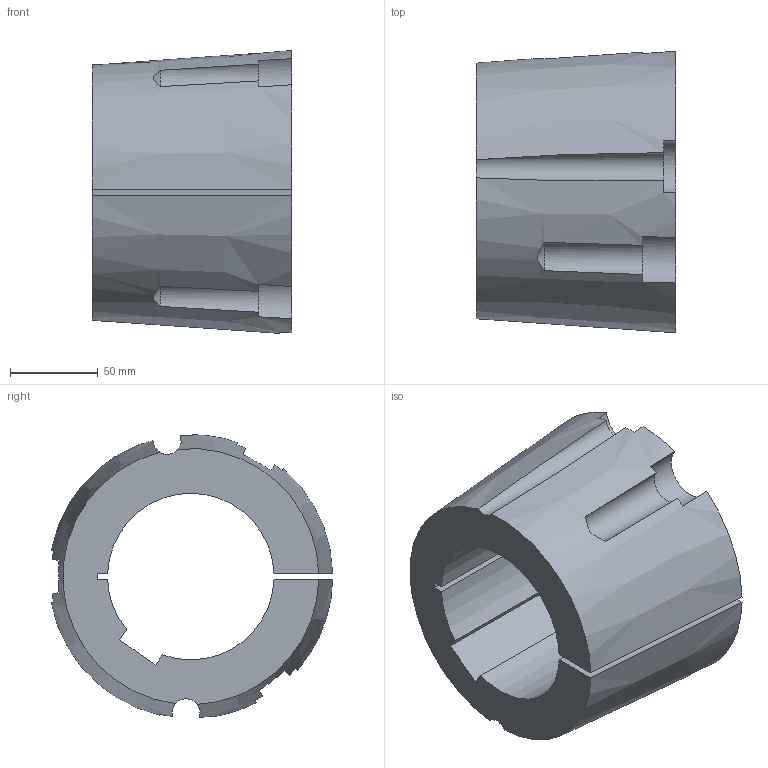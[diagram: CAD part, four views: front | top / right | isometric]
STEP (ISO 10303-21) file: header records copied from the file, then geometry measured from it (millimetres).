
FILE_DESCRIPTION( ( 'STEP AP203' ), '1' );
FILE_NAME( 'D:/export/antriebselemente/spannbuchsen_und_spannsaetze/taper-spannbuchsen_1008_bis_5050/taper-spannbuchsen_62251595Isometric_257.stp', '2018-12-11T11:11:36', ( '' ), ( '' ), ' ', 'PARTsolutions', ' ' );
FILE_SCHEMA( ( 'CONFIG_CONTROL_DESIGN' ) );
Length unit declared in the file: millimetre
Products named in the file (1): _taper-spannbuchsen_62251595
Bounding box: 114 x 160.6 x 161.35 mm (x, y, z)
Volume: 1217174.8 mm3; surface area: 124346.1 mm2
Topology: 1 solids, 1 shells, 34 faces, 96 edges, 64 vertices
Faces by surface type: plane 15, cylinder 13, cone 6
Entity records: 1314 total; most frequent: CARTESIAN_POINT 390, ORIENTED_EDGE 192, DIRECTION 186, EDGE_CURVE 96, AXIS2_PLACEMENT_3D 80, VERTEX_POINT 64, CIRCLE 45, ADVANCED_FACE 34
